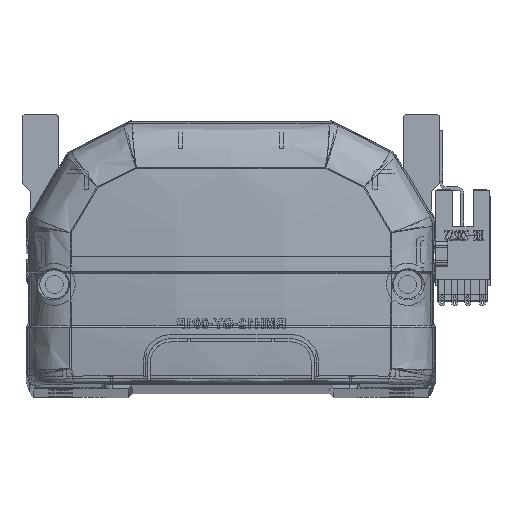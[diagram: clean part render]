
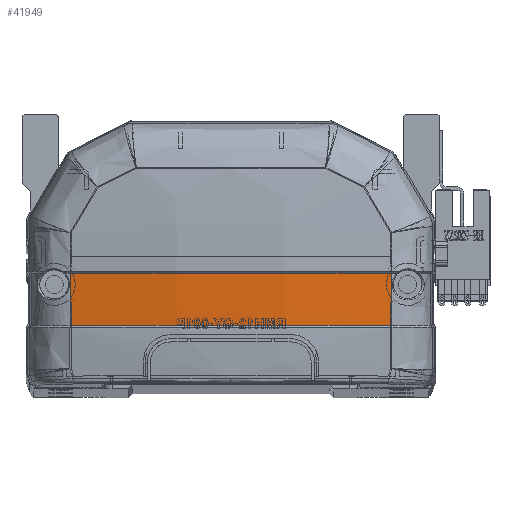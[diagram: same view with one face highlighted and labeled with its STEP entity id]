
A CAD part, top view. The second image highlights one B-rep face of the part: STEP entity #41949.
In plain terms, the highlighted free-form (B-spline) face has degree [3, 3] with [4, 4] control points.
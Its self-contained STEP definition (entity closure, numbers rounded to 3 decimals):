
#1644 =( BOUNDED_SURFACE ( )  B_SPLINE_SURFACE ( 3, 3, ( 
 ( #28763, #35809, #48304, #4812 ),
 ( #16610, #24655, #4971, #8926 ),
 ( #12879, #24831, #20697, #40237 ),
 ( #28074, #4653, #16774, #32018 ) ),
 .UNSPECIFIED., .F., .F., .F. ) 
 B_SPLINE_SURFACE_WITH_KNOTS ( ( 4, 4 ),
 ( 4, 4 ),
 ( 0., 1. ),
 ( 0., 1. ),
 .UNSPECIFIED. ) 
 GEOMETRIC_REPRESENTATION_ITEM ( )  RATIONAL_B_SPLINE_SURFACE ( (
 ( 1., 1., 1., 1.),
 ( 0.992, 0.992, 0.992, 0.992),
 ( 0.992, 0.992, 0.992, 0.992),
 ( 1., 1., 1., 1.) ) ) 
 REPRESENTATION_ITEM ( '' )  SURFACE ( )  );
#2169 = CARTESIAN_POINT ( 'NONE',  ( 39.973, 20.12, -6.142 ) ) ;
#4653 = CARTESIAN_POINT ( 'NONE',  ( -40.461, 20.111, -6.066 ) ) ;
#4812 = CARTESIAN_POINT ( 'NONE',  ( 40.461, 28.832, -6.296 ) ) ;
#4847 = CARTESIAN_POINT ( 'NONE',  ( -33.365, 15.83, -6.848 ) ) ;
#4971 = CARTESIAN_POINT ( 'NONE',  ( 13.598, 24.342, -10.47 ) ) ;
#5164 = ORIENTED_EDGE ( 'NONE', *, *, #23080, .T. ) ;
#5168 = CARTESIAN_POINT ( 'NONE',  ( -39.985, 15.83, -5.879 ) ) ;
#6503 = CARTESIAN_POINT ( 'NONE',  ( -26.748, 28.706, -8.432 ) ) ;
#6681 = EDGE_CURVE ( 'NONE', #8571, #45536, #8764, .T. ) ;
#7444 = CARTESIAN_POINT ( 'NONE',  ( -39.973, 20.118, -6.142 ) ) ;
#8571 = VERTEX_POINT ( 'NONE', #47580 ) ;
#8764 = B_SPLINE_CURVE_WITH_KNOTS ( 'NONE', 3,
 ( #29130, #6503, #37865, #36650, #48326, #13381 ),
 .UNSPECIFIED., .F., .F.,
 ( 4, 2, 4 ),
 ( 0., 0.5, 1. ),
 .UNSPECIFIED. ) ;
#8777 = CARTESIAN_POINT ( 'NONE',  ( -13.384, 15.83, -8.724 ) ) ;
#8926 = CARTESIAN_POINT ( 'NONE',  ( 13.598, 28.769, -10.535 ) ) ;
#9092 = EDGE_LOOP ( 'NONE', ( #5164, #20004, #41781, #24233 ) ) ;
#9547 = CARTESIAN_POINT ( 'NONE',  ( 39.966, 24.413, -6.306 ) ) ;
#12745 = CARTESIAN_POINT ( 'NONE',  ( -23.389, 15.83, -7.947 ) ) ;
#12879 = CARTESIAN_POINT ( 'NONE',  ( -13.598, 15.499, -10.032 ) ) ;
#13381 = CARTESIAN_POINT ( 'NONE',  ( 39.963, 28.706, -6.372 ) ) ;
#15675 = CARTESIAN_POINT ( 'NONE',  ( -39.985, 15.83, -5.879 ) ) ;
#16610 = CARTESIAN_POINT ( 'NONE',  ( 13.598, 15.499, -10.032 ) ) ;
#16774 = CARTESIAN_POINT ( 'NONE',  ( -40.461, 24.47, -6.231 ) ) ;
#16961 = CARTESIAN_POINT ( 'NONE',  ( -36.679, 15.83, -6.395 ) ) ;
#17197 = CARTESIAN_POINT ( 'NONE',  ( 39.963, 28.706, -6.372 ) ) ;
#17872 = CARTESIAN_POINT ( 'NONE',  ( 39.985, 15.83, -5.879 ) ) ;
#19617 = EDGE_CURVE ( 'NONE', #8571, #20171, #45297, .T. ) ;
#20004 = ORIENTED_EDGE ( 'NONE', *, *, #6681, .F. ) ;
#20057 = CARTESIAN_POINT ( 'NONE',  ( -39.985, 15.83, -5.879 ) ) ;
#20074 = B_SPLINE_CURVE_WITH_KNOTS ( 'NONE', 3,
 ( #17872, #2169, #9547, #17197 ),
 .UNSPECIFIED., .F., .F.,
 ( 4, 4 ),
 ( 0., 1. ),
 .UNSPECIFIED. ) ;
#20171 = VERTEX_POINT ( 'NONE', #20057 ) ;
#20697 = CARTESIAN_POINT ( 'NONE',  ( -13.598, 24.342, -10.47 ) ) ;
#20726 = CARTESIAN_POINT ( 'NONE',  ( -6.692, 15.83, -8.984 ) ) ;
#21055 = CARTESIAN_POINT ( 'NONE',  ( 39.985, 15.83, -5.879 ) ) ;
#23042 = CARTESIAN_POINT ( 'NONE',  ( -39.963, 28.706, -6.372 ) ) ;
#23080 = EDGE_CURVE ( 'NONE', #31105, #45536, #20074, .T. ) ;
#24233 = ORIENTED_EDGE ( 'NONE', *, *, #42439, .F. ) ;
#24655 = CARTESIAN_POINT ( 'NONE',  ( 13.598, 19.918, -10.302 ) ) ;
#24831 = CARTESIAN_POINT ( 'NONE',  ( -13.598, 19.918, -10.302 ) ) ;
#28074 = CARTESIAN_POINT ( 'NONE',  ( -40.461, 15.757, -5.8 ) ) ;
#28627 = CARTESIAN_POINT ( 'NONE',  ( -26.721, 15.83, -7.624 ) ) ;
#28763 = CARTESIAN_POINT ( 'NONE',  ( 40.461, 15.757, -5.8 ) ) ;
#29130 = CARTESIAN_POINT ( 'NONE',  ( -39.963, 28.706, -6.372 ) ) ;
#31105 = VERTEX_POINT ( 'NONE', #45739 ) ;
#32018 = CARTESIAN_POINT ( 'NONE',  ( -40.461, 28.832, -6.296 ) ) ;
#34700 = CARTESIAN_POINT ( 'NONE',  ( -39.966, 24.412, -6.306 ) ) ;
#35809 = CARTESIAN_POINT ( 'NONE',  ( 40.461, 20.111, -6.066 ) ) ;
#36650 = CARTESIAN_POINT ( 'NONE',  ( 13.375, 28.707, -9.468 ) ) ;
#37865 = CARTESIAN_POINT ( 'NONE',  ( -13.373, 28.707, -9.468 ) ) ;
#40237 = CARTESIAN_POINT ( 'NONE',  ( -13.598, 28.769, -10.535 ) ) ;
#40590 = CARTESIAN_POINT ( 'NONE',  ( 13.38, 15.83, -8.984 ) ) ;
#41781 = ORIENTED_EDGE ( 'NONE', *, *, #19617, .T. ) ;
#41949 = ADVANCED_FACE ( 'NONE', ( #48077 ), #1644, .F. ) ;
#42439 = EDGE_CURVE ( 'NONE', #31105, #20171, #48111, .T. ) ;
#43373 = CARTESIAN_POINT ( 'NONE',  ( 39.963, 28.706, -6.372 ) ) ;
#45297 = B_SPLINE_CURVE_WITH_KNOTS ( 'NONE', 3,
 ( #23042, #34700, #7444, #15675 ),
 .UNSPECIFIED., .F., .F.,
 ( 4, 4 ),
 ( 0., 1. ),
 .UNSPECIFIED. ) ;
#45536 = VERTEX_POINT ( 'NONE', #43373 ) ;
#45739 = CARTESIAN_POINT ( 'NONE',  ( 39.985, 15.83, -5.879 ) ) ;
#47580 = CARTESIAN_POINT ( 'NONE',  ( -39.963, 28.706, -6.372 ) ) ;
#48077 = FACE_OUTER_BOUND ( 'NONE', #9092, .T. ) ;
#48111 = B_SPLINE_CURVE_WITH_KNOTS ( 'NONE', 3,
 ( #21055, #48172, #40590, #20726, #8777, #12745, #28627, #4847, #16961, #5168 ),
 .UNSPECIFIED., .F., .F.,
 ( 4, 2, 2, 2, 4 ),
 ( 0., 0.04, 0.06, 0.07, 0.08 ),
 .UNSPECIFIED. ) ;
#48172 = CARTESIAN_POINT ( 'NONE',  ( 26.761, 15.83, -7.945 ) ) ;
#48304 = CARTESIAN_POINT ( 'NONE',  ( 40.461, 24.47, -6.231 ) ) ;
#48326 = CARTESIAN_POINT ( 'NONE',  ( 26.749, 28.706, -8.432 ) ) ;
